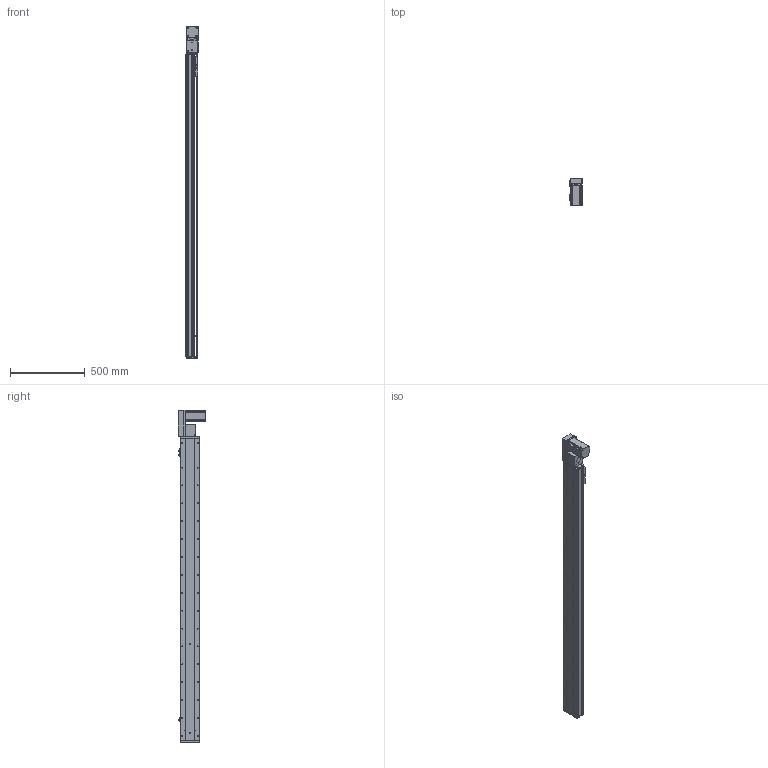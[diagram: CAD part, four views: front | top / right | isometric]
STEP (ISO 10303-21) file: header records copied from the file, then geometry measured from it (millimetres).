
FILE_DESCRIPTION (( 'STEP AP214' ), '1' );
FILE_NAME ('KSD130B-S1800-MRB-CM.STEP', '2019-09-21T07:22:47', ( '微软用户' ), ( '微软中国' ), 'SwSTEP 2.0', 'SolidWorks 2014', '' );
FILE_SCHEMA (( 'AUTOMOTIVE_DESIGN' ));
Length unit declared in the file: millimetre
Products named in the file (12): 台达ECMA－C20807AS伺服电机; 130宽模组保护罩上下左右折-同步带; 130宽模组马达安装板连板左右折同步带; 覜茼え100遵圉猾敕; U倰嫖萇EEㄜSX672; 130宽盖板半封闭同步带-1800行程; 130宽马达安装板同步带右-改镜向_默认<按加工>; 130宽马达安装板同步带半封闭; 130宽同步带安装座半封闭; 130宽端盖同步带半封闭; 130宽底板半封闭同步带-1800行程; KSD130B-S1800-MRB-CM
Assembly tree (13 placements, depth 2):
  KSD130B-S1800-MRB-CM
    130宽底板半封闭同步带-1800行程
    130宽端盖同步带半封闭
    130宽同步带安装座半封闭
    130宽马达安装板同步带半封闭
    130宽马达安装板同步带右-改镜向_默认<按加工>
    130宽盖板半封闭同步带-1800行程
    U倰嫖萇EEㄜSX672  x3
    覜茼え100遵圉猾敕
    130宽模组马达安装板连板左右折同步带
    130宽模组保护罩上下左右折-同步带
    台达ECMA－C20807AS伺服电机
Bounding box: 81 x 184.8 x 2227 mm (x, y, z)
Volume: 7147300 mm3; surface area: 2023778.9 mm2
Topology: 14 solids, 14 shells, 1727 faces, 5021 edges, 3181 vertices
Faces by surface type: cylinder 850, plane 650, cone 227
Entity records: 58799 total; most frequent: CARTESIAN_POINT 11358, DIRECTION 8859, ORIENTED_EDGE 8574, EDGE_CURVE 4287, AXIS2_PLACEMENT_3D 3262, VERTEX_POINT 2805, VECTOR 2335, LINE 2335
